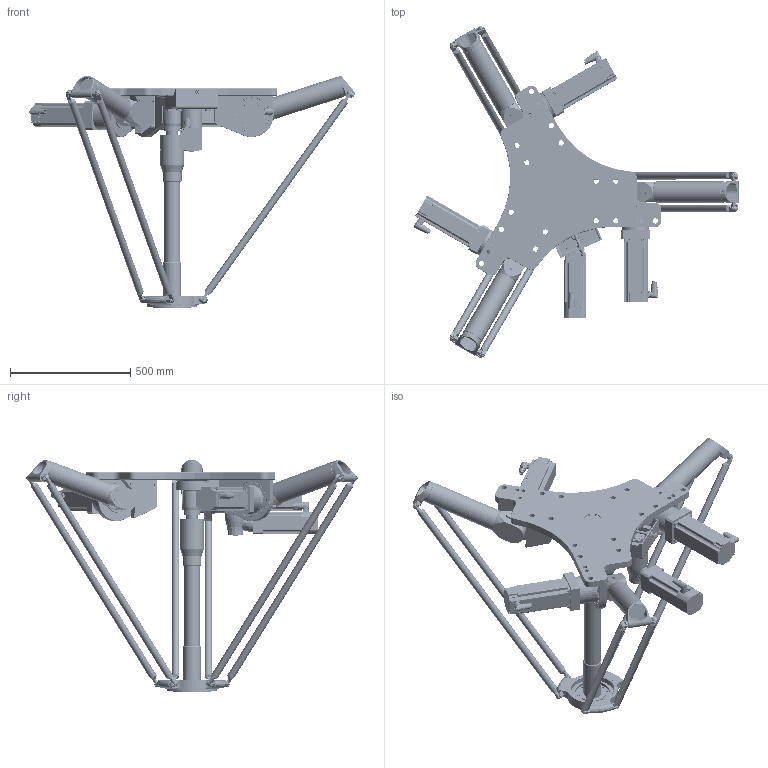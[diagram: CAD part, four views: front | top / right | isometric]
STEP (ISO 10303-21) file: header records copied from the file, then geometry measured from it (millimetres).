
FILE_DESCRIPTION (( 'STEP AP214' ), '1' );
FILE_NAME ('DR4120C-AX012.STEP', '2020-04-20T05:19:02', ( '' ), ( '' ), 'SwSTEP 2.0', 'SolidWorks 2017', '' );
FILE_SCHEMA (( 'AUTOMOTIVE_DESIGN' ));
Length unit declared in the file: millimetre
Products named in the file (4): DR4120C-AX012; 8LSA37_DB060S200_3_8; DR4120C-AX012_ohne_Motor; 8LSA46_DB030S200_3_9
Assembly tree (5 placements, depth 2):
  DR4120C-AX012
    DR4120C-AX012_ohne_Motor
    8LSA37_DB060S200_3_8
    8LSA46_DB030S200_3_9  x3
Bounding box: 1351.35 x 1379.04 x 964.72 mm (x, y, z)
Volume: 46279180.3 mm3; surface area: 4067897.2 mm2
Topology: 29 solids, 71 shells, 5648 faces, 13340 edges, 8520 vertices
Faces by surface type: plane 2924, cylinder 1568, bspline 655, cone 496, torus 5
Full cylindrical faces by diameter (mm): 1 x16, 3 x3, 3.3 x1, 4 x1, 4.134 x12, 4.2 x3, 4.3 x1, 4.5 x4, 4.917 x12, 5 x96, 5.3 x3, 5.5 x4, 7 x16, 7.318 x4, 7.5 x16, 8 x72, 8.2 x36, 8.376 x6, 8.5 x132, 9 x12, 9.6 x3, 10 x11, 12 x25, 13 x36, 13.835 x9, 14 x1, 15 x1, 16 x13, 17.294 x6, 18 x48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
Entity records: 229093 total; most frequent: CARTESIAN_POINT 101207, DIRECTION 16929, ORIENTED_EDGE 16490, EDGE_CURVE 8245, AXIS2_PLACEMENT_3D 6354, EDGE_LOOP 6050, VERTEX_POINT 5787, FACE_OUTER_BOUND 5102
